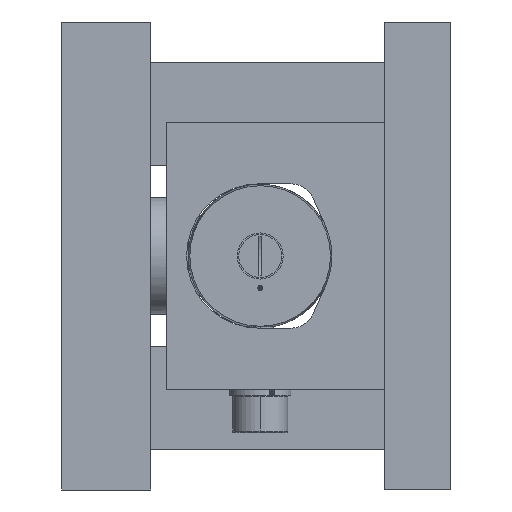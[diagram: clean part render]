
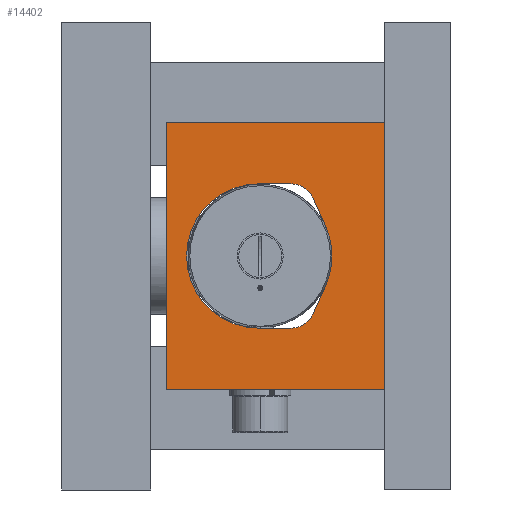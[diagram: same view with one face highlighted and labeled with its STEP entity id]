
A CAD part, left-side view. The second image highlights one B-rep face of the part: STEP entity #14402.
In plain terms, the highlighted planar face has unit normal (-1, 0, 0) as drawn and (0, 0, 1) by its records, which use the part's own axes.
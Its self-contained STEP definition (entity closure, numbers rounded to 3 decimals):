
#225 = ORIENTED_EDGE ( 'NONE', *, *, #24714, .F. ) ;
#334 = DIRECTION ( 'NONE',  ( 0., 0., 1. ) ) ;
#347 = VECTOR ( 'NONE', #23794, 1000. ) ;
#363 = VERTEX_POINT ( 'NONE', #3003 ) ;
#675 = VECTOR ( 'NONE', #1825, 1000. ) ;
#1192 = CARTESIAN_POINT ( 'NONE',  ( 19.089, -42.938, 25. ) ) ;
#1342 = VERTEX_POINT ( 'NONE', #19245 ) ;
#1547 = VERTEX_POINT ( 'NONE', #17763 ) ;
#1676 = CARTESIAN_POINT ( 'NONE',  ( -19.086, -42.939, 25. ) ) ;
#1825 = DIRECTION ( 'NONE',  ( 0., -1., 0. ) ) ;
#1963 = AXIS2_PLACEMENT_3D ( 'NONE', #2406, #27223, #24600 ) ;
#2088 = LINE ( 'NONE', #20576, #8336 ) ;
#2406 = CARTESIAN_POINT ( 'NONE',  ( 0., 0., 25. ) ) ;
#3003 = CARTESIAN_POINT ( 'NONE',  ( 87., -81.094, 25. ) ) ;
#3332 = EDGE_CURVE ( 'NONE', #14277, #21942, #15502, .T. ) ;
#3512 = DIRECTION ( 'NONE',  ( 0., -1., 0. ) ) ;
#3661 = ORIENTED_EDGE ( 'NONE', *, *, #3332, .F. ) ;
#3740 = ORIENTED_EDGE ( 'NONE', *, *, #27012, .T. ) ;
#3783 = CARTESIAN_POINT ( 'NONE',  ( 87., 60.906, 25. ) ) ;
#4185 = ORIENTED_EDGE ( 'NONE', *, *, #17104, .F. ) ;
#4188 = CARTESIAN_POINT ( 'NONE',  ( -46.99, 0.762, 25. ) ) ;
#4281 = EDGE_CURVE ( 'NONE', #1547, #27412, #10682, .T. ) ;
#4311 = DIRECTION ( 'NONE',  ( 0., 0., 1. ) ) ;
#4772 = CARTESIAN_POINT ( 'NONE',  ( 0., 0., 25. ) ) ;
#4871 = CARTESIAN_POINT ( 'NONE',  ( 37.564, -34.724, 25. ) ) ;
#5578 = AXIS2_PLACEMENT_3D ( 'NONE', #9795, #27820, #5648 ) ;
#5648 = DIRECTION ( 'NONE',  ( 1., 0., 0. ) ) ;
#5726 = CARTESIAN_POINT ( 'NONE',  ( -87., 60.906, 25. ) ) ;
#5965 = LINE ( 'NONE', #16943, #9481 ) ;
#6801 = DIRECTION ( 'NONE',  ( 1., 0., 0. ) ) ;
#6956 = CARTESIAN_POINT ( 'NONE',  ( 46.99, 0.762, 25. ) ) ;
#7110 = EDGE_CURVE ( 'NONE', #25906, #16741, #12021, .T. ) ;
#8336 = VECTOR ( 'NONE', #11249, 1000. ) ;
#8404 = LINE ( 'NONE', #28648, #347 ) ;
#8620 = CARTESIAN_POINT ( 'NONE',  ( 46.99, -20.218, 25. ) ) ;
#8671 = ORIENTED_EDGE ( 'NONE', *, *, #14361, .T. ) ;
#8882 = LINE ( 'NONE', #4871, #16885 ) ;
#9481 = VECTOR ( 'NONE', #15016, 1000. ) ;
#9613 = CARTESIAN_POINT ( 'NONE',  ( -87., 60.906, 25. ) ) ;
#9631 = ORIENTED_EDGE ( 'NONE', *, *, #9908, .T. ) ;
#9669 = AXIS2_PLACEMENT_3D ( 'NONE', #15105, #28652, #10779 ) ;
#9671 = EDGE_CURVE ( 'NONE', #21942, #25906, #8882, .T. ) ;
#9759 = VECTOR ( 'NONE', #27042, 1000. ) ;
#9795 = CARTESIAN_POINT ( 'NONE',  ( -31.115, -20.22, 25. ) ) ;
#9908 = EDGE_CURVE ( 'NONE', #1342, #21927, #8404, .T. ) ;
#10378 = ORIENTED_EDGE ( 'NONE', *, *, #7110, .F. ) ;
#10682 = LINE ( 'NONE', #4188, #675 ) ;
#10748 = CARTESIAN_POINT ( 'NONE',  ( -87., -81.094, 25. ) ) ;
#10779 = DIRECTION ( 'NONE',  ( 1., 0., 0. ) ) ;
#10869 = ORIENTED_EDGE ( 'NONE', *, *, #9671, .F. ) ;
#11164 = ORIENTED_EDGE ( 'NONE', *, *, #17487, .T. ) ;
#11249 = DIRECTION ( 'NONE',  ( 0.914, -0.406, 0. ) ) ;
#12021 = CIRCLE ( 'NONE', #21952, 15.875 ) ;
#12537 = EDGE_LOOP ( 'NONE', ( #11164, #8671, #3740, #9631 ) ) ;
#13163 = CARTESIAN_POINT ( 'NONE',  ( -46.99, -20.22, 25. ) ) ;
#13205 = EDGE_LOOP ( 'NONE', ( #4185, #225, #10378, #10869, #3661, #13714, #15209, #21570 ) ) ;
#13211 = VERTEX_POINT ( 'NONE', #10748 ) ;
#13471 = VECTOR ( 'NONE', #3512, 1000. ) ;
#13621 = CARTESIAN_POINT ( 'NONE',  ( 31.115, -20.218, 25. ) ) ;
#13714 = ORIENTED_EDGE ( 'NONE', *, *, #24710, .F. ) ;
#14031 = VERTEX_POINT ( 'NONE', #24630 ) ;
#14110 = DIRECTION ( 'NONE',  ( 1., 0., 0. ) ) ;
#14277 = VERTEX_POINT ( 'NONE', #1676 ) ;
#14361 = EDGE_CURVE ( 'NONE', #13211, #363, #5965, .T. ) ;
#14402 = ADVANCED_FACE ( 'NONE', ( #18230, #20309 ), #22218, .T. ) ;
#15016 = DIRECTION ( 'NONE',  ( 1., 0., 0. ) ) ;
#15105 = CARTESIAN_POINT ( 'NONE',  ( 0., 0.762, 25. ) ) ;
#15209 = ORIENTED_EDGE ( 'NONE', *, *, #25766, .F. ) ;
#15502 = CIRCLE ( 'NONE', #21130, 46.99 ) ;
#16741 = VERTEX_POINT ( 'NONE', #8620 ) ;
#16885 = VECTOR ( 'NONE', #17919, 1000. ) ;
#16943 = CARTESIAN_POINT ( 'NONE',  ( -87., -81.094, 25. ) ) ;
#17002 = LINE ( 'NONE', #5726, #13471 ) ;
#17104 = EDGE_CURVE ( 'NONE', #14031, #1547, #23367, .T. ) ;
#17487 = EDGE_CURVE ( 'NONE', #21927, #13211, #17002, .T. ) ;
#17763 = CARTESIAN_POINT ( 'NONE',  ( -46.99, 0.762, 25. ) ) ;
#17919 = DIRECTION ( 'NONE',  ( 0.914, 0.406, 0. ) ) ;
#18230 = FACE_BOUND ( 'NONE', #13205, .T. ) ;
#18250 = CARTESIAN_POINT ( 'NONE',  ( -37.563, -34.727, 25. ) ) ;
#19156 = DIRECTION ( 'NONE',  ( 0., 1., 0. ) ) ;
#19245 = CARTESIAN_POINT ( 'NONE',  ( 87., 60.906, 25. ) ) ;
#19715 = CARTESIAN_POINT ( 'NONE',  ( 37.564, -34.724, 25. ) ) ;
#20291 = LINE ( 'NONE', #6956, #9759 ) ;
#20309 = FACE_OUTER_BOUND ( 'NONE', #12537, .T. ) ;
#20576 = CARTESIAN_POINT ( 'NONE',  ( -37.563, -34.727, 25. ) ) ;
#21130 = AXIS2_PLACEMENT_3D ( 'NONE', #4772, #334, #14110 ) ;
#21174 = CIRCLE ( 'NONE', #5578, 15.875 ) ;
#21570 = ORIENTED_EDGE ( 'NONE', *, *, #4281, .F. ) ;
#21927 = VERTEX_POINT ( 'NONE', #9613 ) ;
#21942 = VERTEX_POINT ( 'NONE', #1192 ) ;
#21952 = AXIS2_PLACEMENT_3D ( 'NONE', #13621, #4311, #6801 ) ;
#22218 = PLANE ( 'NONE',  #1963 ) ;
#23367 = CIRCLE ( 'NONE', #9669, 46.99 ) ;
#23794 = DIRECTION ( 'NONE',  ( -1., 0., 0. ) ) ;
#24052 = LINE ( 'NONE', #3783, #24484 ) ;
#24484 = VECTOR ( 'NONE', #19156, 1000. ) ;
#24600 = DIRECTION ( 'NONE',  ( 1., 0., 0. ) ) ;
#24630 = CARTESIAN_POINT ( 'NONE',  ( 46.99, 0.762, 25. ) ) ;
#24710 = EDGE_CURVE ( 'NONE', #25673, #14277, #2088, .T. ) ;
#24714 = EDGE_CURVE ( 'NONE', #16741, #14031, #20291, .T. ) ;
#25673 = VERTEX_POINT ( 'NONE', #18250 ) ;
#25766 = EDGE_CURVE ( 'NONE', #27412, #25673, #21174, .T. ) ;
#25906 = VERTEX_POINT ( 'NONE', #19715 ) ;
#27012 = EDGE_CURVE ( 'NONE', #363, #1342, #24052, .T. ) ;
#27042 = DIRECTION ( 'NONE',  ( 0., 1., 0. ) ) ;
#27223 = DIRECTION ( 'NONE',  ( 0., 0., 1. ) ) ;
#27412 = VERTEX_POINT ( 'NONE', #13163 ) ;
#27820 = DIRECTION ( 'NONE',  ( 0., 0., 1. ) ) ;
#28648 = CARTESIAN_POINT ( 'NONE',  ( -87., 60.906, 25. ) ) ;
#28652 = DIRECTION ( 'NONE',  ( 0., 0., 1. ) ) ;
